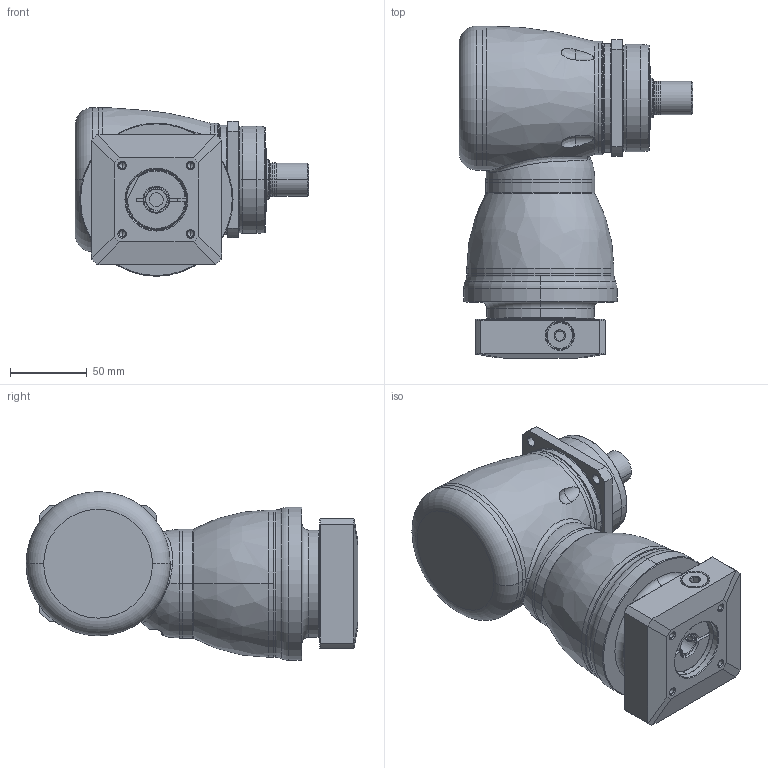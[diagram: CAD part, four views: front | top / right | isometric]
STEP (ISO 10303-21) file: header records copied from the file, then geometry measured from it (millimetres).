
FILE_DESCRIPTION((''),'2;1');
FILE_NAME('KF075_S3_1ST_14-P0409310101_ASM','2016-07-01T',('d01943'),(''),'PRO/ENGINEER BY PARAMETRIC TECHNOLOGY CORPORATION, 2008410','PRO/ENGINEER BY PARAMETRIC TECHNOLOGY CORPORATION, 2008410','');
FILE_SCHEMA(('CONFIG_CONTROL_DESIGN'));
Length unit declared in the file: millimetre
Products named in the file (11): P1008300002; P1804300001; P0915302001; P1315300001; P1007300001; P1318300101; P0409310101; P0503300006; P0912301001; 21711412017; KF075_S3_1ST_14-P0409310101_ASM
Assembly tree (10 placements, depth 2):
  KF075_S3_1ST_14-P0409310101_ASM
    P1008300002
    P1804300001
    P0915302001
    P1315300001
    P1007300001
    P1318300101
    P0409310101
    P0503300006
    P0912301001
    21711412017
Bounding box: 152.5 x 216.5 x 110 mm (x, y, z)
Volume: 1381571.1 mm3; surface area: 187423.2 mm2
Topology: 11 solids, 11 shells, 441 faces, 1005 edges, 594 vertices
Faces by surface type: cylinder 143, cone 112, plane 85, torus 66, bspline 33, sphere 2
Entity records: 18909 total; most frequent: CARTESIAN_POINT 8902, DIRECTION 2192, ORIENTED_EDGE 1946, EDGE_CURVE 973, AXIS2_PLACEMENT_3D 932, VERTEX_POINT 588, CIRCLE 503, EDGE_LOOP 499
